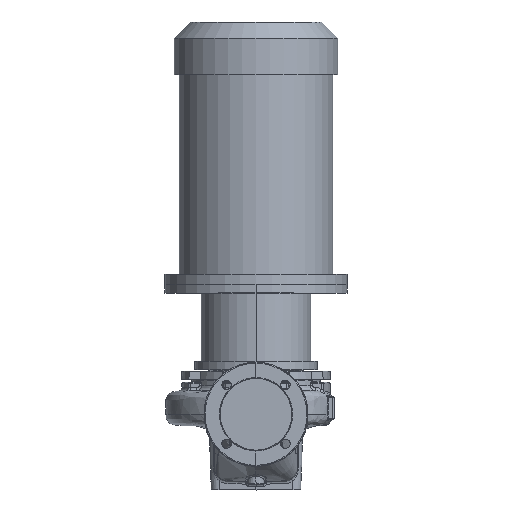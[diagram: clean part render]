
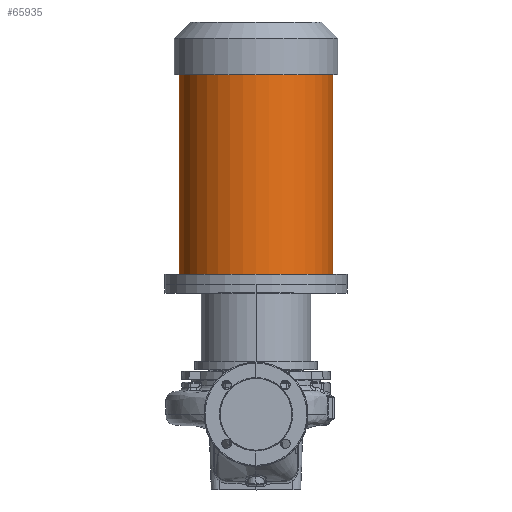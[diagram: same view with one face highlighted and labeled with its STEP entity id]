
A CAD part, top view. The second image highlights one B-rep face of the part: STEP entity #65935.
In plain terms, the highlighted cylindrical face has radius 147.5 mm (diameter 295 mm), a partial arc.
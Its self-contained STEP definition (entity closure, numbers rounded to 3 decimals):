
#325 = CARTESIAN_POINT ( 'NONE',  ( -147.5, 249.3, 0. ) ) ;
#3859 = CIRCLE ( 'NONE', #37779, 147.5 ) ;
#5556 = VECTOR ( 'NONE', #43724, 1000. ) ;
#7120 = CARTESIAN_POINT ( 'NONE',  ( 147.5, 269.3, 0. ) ) ;
#10642 = AXIS2_PLACEMENT_3D ( 'NONE', #24222, #58403, #63261 ) ;
#11673 = VERTEX_POINT ( 'NONE', #7120 ) ;
#12645 = FACE_OUTER_BOUND ( 'NONE', #36046, .T. ) ;
#13131 = ORIENTED_EDGE ( 'NONE', *, *, #51684, .F. ) ;
#16493 = AXIS2_PLACEMENT_3D ( 'NONE', #63629, #58765, #25334 ) ;
#18846 = CARTESIAN_POINT ( 'NONE',  ( -147.5, 653.3, 0. ) ) ;
#20575 = EDGE_CURVE ( 'NONE', #32379, #37963, #38326, .T. ) ;
#24222 = CARTESIAN_POINT ( 'NONE',  ( 0., 249.3, 0. ) ) ;
#25334 = DIRECTION ( 'NONE',  ( -1., 0., 0. ) ) ;
#26969 = VECTOR ( 'NONE', #71285, 1000. ) ;
#32379 = VERTEX_POINT ( 'NONE', #18846 ) ;
#35276 = ORIENTED_EDGE ( 'NONE', *, *, #66348, .T. ) ;
#35808 = CARTESIAN_POINT ( 'NONE',  ( 0., 653.3, 0. ) ) ;
#36046 = EDGE_LOOP ( 'NONE', ( #67669, #35276, #56559, #13131 ) ) ;
#37779 = AXIS2_PLACEMENT_3D ( 'NONE', #35808, #52673, #68933 ) ;
#37934 = EDGE_CURVE ( 'NONE', #50345, #11673, #53646, .T. ) ;
#37963 = VERTEX_POINT ( 'NONE', #70761 ) ;
#38326 = LINE ( 'NONE', #325, #26969 ) ;
#38851 = CYLINDRICAL_SURFACE ( 'NONE', #10642, 147.5 ) ;
#39309 = CIRCLE ( 'NONE', #16493, 147.5 ) ;
#43724 = DIRECTION ( 'NONE',  ( 0., -1., 0. ) ) ;
#44985 = CARTESIAN_POINT ( 'NONE',  ( 147.5, 653.3, 0. ) ) ;
#50345 = VERTEX_POINT ( 'NONE', #44985 ) ;
#51684 = EDGE_CURVE ( 'NONE', #11673, #37963, #39309, .T. ) ;
#52673 = DIRECTION ( 'NONE',  ( 0., -1., 0. ) ) ;
#53646 = LINE ( 'NONE', #54484, #5556 ) ;
#54484 = CARTESIAN_POINT ( 'NONE',  ( 147.5, 249.3, 0. ) ) ;
#56559 = ORIENTED_EDGE ( 'NONE', *, *, #20575, .T. ) ;
#58403 = DIRECTION ( 'NONE',  ( 0., -1., 0. ) ) ;
#58765 = DIRECTION ( 'NONE',  ( 0., -1., 0. ) ) ;
#63261 = DIRECTION ( 'NONE',  ( -1., 0., 0. ) ) ;
#63629 = CARTESIAN_POINT ( 'NONE',  ( 0., 269.3, 0. ) ) ;
#65935 = ADVANCED_FACE ( 'NONE', ( #12645 ), #38851, .T. ) ;
#66348 = EDGE_CURVE ( 'NONE', #50345, #32379, #3859, .T. ) ;
#67669 = ORIENTED_EDGE ( 'NONE', *, *, #37934, .F. ) ;
#68933 = DIRECTION ( 'NONE',  ( -1., 0., 0. ) ) ;
#70761 = CARTESIAN_POINT ( 'NONE',  ( -147.5, 269.3, 0. ) ) ;
#71285 = DIRECTION ( 'NONE',  ( 0., -1., 0. ) ) ;
